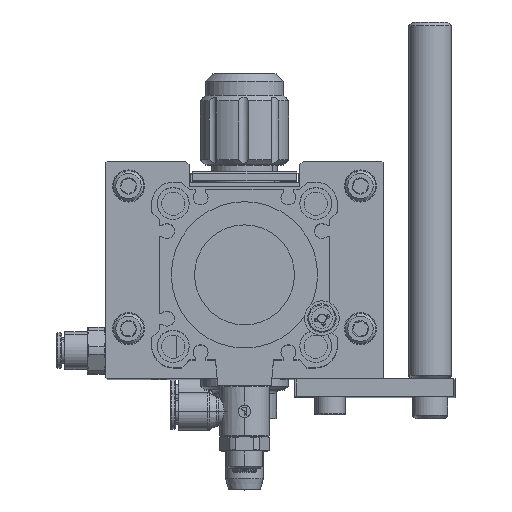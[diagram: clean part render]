
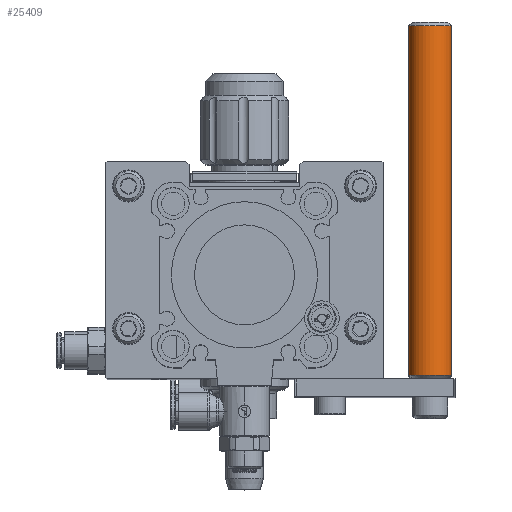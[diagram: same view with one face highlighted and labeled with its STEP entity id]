
A CAD part, top view. The second image highlights one B-rep face of the part: STEP entity #25409.
In plain terms, the highlighted cylindrical face has radius 6 mm (diameter 12 mm), a partial arc.
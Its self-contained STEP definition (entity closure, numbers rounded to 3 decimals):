
#130 = DIRECTION ( 'NONE',  ( -1., 0., 0. ) ) ;
#1419 = AXIS2_PLACEMENT_3D ( 'NONE', #20177, #55652, #10213 ) ;
#9253 = LINE ( 'NONE', #30432, #22642 ) ;
#10213 = DIRECTION ( 'NONE',  ( -1., 0., 0. ) ) ;
#10549 = VERTEX_POINT ( 'NONE', #22467 ) ;
#11250 = EDGE_CURVE ( 'NONE', #59520, #54054, #29972, .T. ) ;
#13946 = LINE ( 'NONE', #34161, #25293 ) ;
#15315 = CARTESIAN_POINT ( 'NONE',  ( 52., 99., 105.5 ) ) ;
#15533 = AXIS2_PLACEMENT_3D ( 'NONE', #41934, #63177, #32628 ) ;
#17926 = CIRCLE ( 'NONE', #43314, 6. ) ;
#19909 = DIRECTION ( 'NONE',  ( 0., 1., 0. ) ) ;
#20177 = CARTESIAN_POINT ( 'NONE',  ( 52., 1., 105.5 ) ) ;
#22047 = FACE_OUTER_BOUND ( 'NONE', #34264, .T. ) ;
#22091 = ORIENTED_EDGE ( 'NONE', *, *, #50028, .F. ) ;
#22467 = CARTESIAN_POINT ( 'NONE',  ( 46., 99., 105.5 ) ) ;
#22642 = VECTOR ( 'NONE', #55307, 1000. ) ;
#25293 = VECTOR ( 'NONE', #19909, 1000. ) ;
#25409 = ADVANCED_FACE ( 'NONE', ( #22047 ), #47585, .T. ) ;
#28587 = ORIENTED_EDGE ( 'NONE', *, *, #39173, .T. ) ;
#29972 = CIRCLE ( 'NONE', #1419, 6. ) ;
#30432 = CARTESIAN_POINT ( 'NONE',  ( 58., 0., 105.5 ) ) ;
#31496 = ORIENTED_EDGE ( 'NONE', *, *, #49823, .T. ) ;
#32628 = DIRECTION ( 'NONE',  ( 1., 0., 0. ) ) ;
#34161 = CARTESIAN_POINT ( 'NONE',  ( 46., 0., 105.5 ) ) ;
#34264 = EDGE_LOOP ( 'NONE', ( #22091, #53403, #28587, #31496 ) ) ;
#37159 = CARTESIAN_POINT ( 'NONE',  ( 46., 1., 105.5 ) ) ;
#38415 = CARTESIAN_POINT ( 'NONE',  ( 58., 1., 105.5 ) ) ;
#39173 = EDGE_CURVE ( 'NONE', #54054, #39514, #9253, .T. ) ;
#39514 = VERTEX_POINT ( 'NONE', #41797 ) ;
#41797 = CARTESIAN_POINT ( 'NONE',  ( 58., 99., 105.5 ) ) ;
#41934 = CARTESIAN_POINT ( 'NONE',  ( 52., 0., 105.5 ) ) ;
#43314 = AXIS2_PLACEMENT_3D ( 'NONE', #15315, #45511, #130 ) ;
#45511 = DIRECTION ( 'NONE',  ( 0., -1., 0. ) ) ;
#47585 = CYLINDRICAL_SURFACE ( 'NONE', #15533, 6. ) ;
#49823 = EDGE_CURVE ( 'NONE', #39514, #10549, #17926, .T. ) ;
#50028 = EDGE_CURVE ( 'NONE', #59520, #10549, #13946, .T. ) ;
#53403 = ORIENTED_EDGE ( 'NONE', *, *, #11250, .T. ) ;
#54054 = VERTEX_POINT ( 'NONE', #38415 ) ;
#55307 = DIRECTION ( 'NONE',  ( 0., 1., 0. ) ) ;
#55652 = DIRECTION ( 'NONE',  ( 0., 1., 0. ) ) ;
#59520 = VERTEX_POINT ( 'NONE', #37159 ) ;
#63177 = DIRECTION ( 'NONE',  ( 0., 1., 0. ) ) ;
